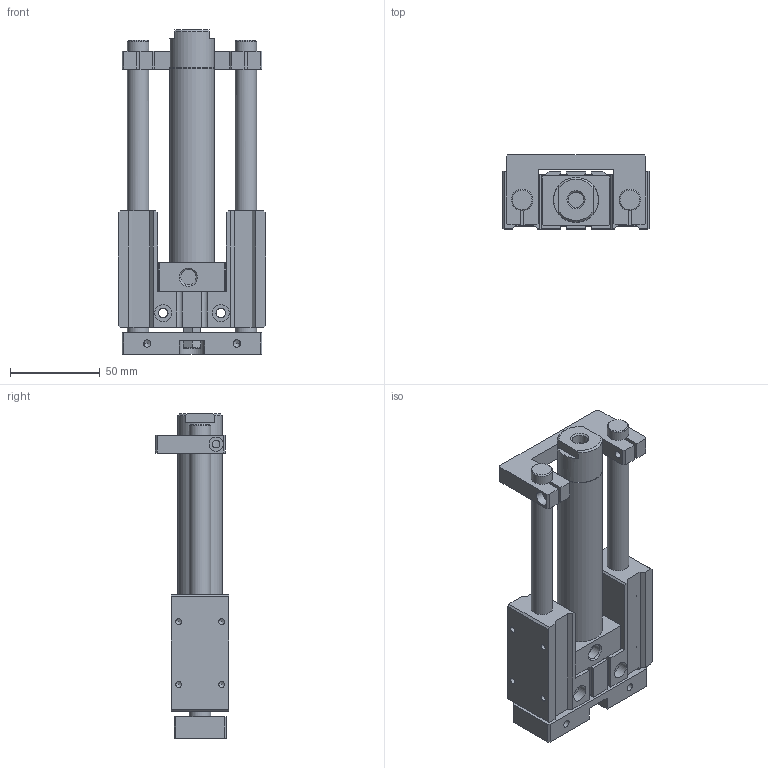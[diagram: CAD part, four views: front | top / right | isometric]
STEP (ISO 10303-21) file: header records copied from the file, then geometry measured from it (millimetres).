
FILE_DESCRIPTION((''),'2;1');
FILE_NAME('I:\3D電子目錄\氣缸\TMB(U)\TMB(U)\TMB(U)20\TMB(U)20x75.stp','2007-10-04T15:00:32',('Administrator'),(''),'Autodesk Inventor 11','Autodesk Inventor 11','');
FILE_SCHEMA(('AUTOMOTIVE_DESIGN { 1 0 10303 214 1 1 1 1 }'));
Length unit declared in the file: millimetre
Products named in the file (1): TMB(U)20
Bounding box: 82 x 41 x 181 mm (x, y, z)
Volume: 241696.5 mm3; surface area: 58915.2 mm2
Topology: 1 solids, 1 shells, 244 faces, 668 edges, 432 vertices
Faces by surface type: plane 139, bspline 50, cone 28, cylinder 25, torus 2
Full cylindrical faces by diameter (mm): 3.242 x4, 4.134 x4, 8 x1, 10 x2, 11 x2, 12 x3, 25 x2
Entity records: 7581 total; most frequent: CARTESIAN_POINT 2093, ORIENTED_EDGE 1088, DIRECTION 1054, EDGE_CURVE 544, VERTEX_POINT 384, EDGE_LOOP 368, AXIS2_PLACEMENT_3D 355, VECTOR 344
